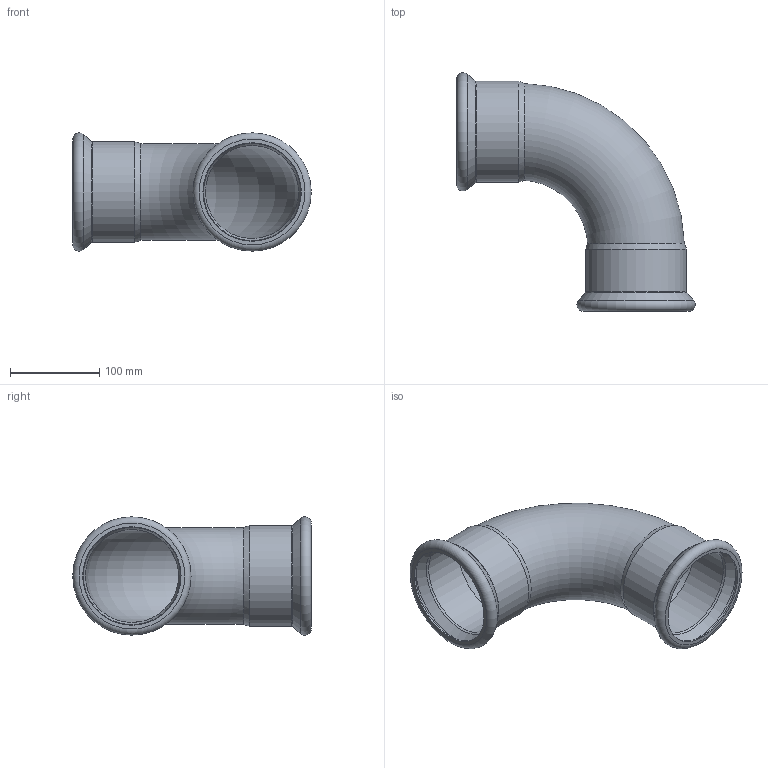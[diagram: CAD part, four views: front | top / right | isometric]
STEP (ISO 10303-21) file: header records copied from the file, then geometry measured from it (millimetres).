
FILE_DESCRIPTION((''),'2;1');
FILE_NAME('G:\Technics\CAD\Bauteile\108\69002A108(2).stp','2008-03-19T11:02:38',('herberg'),(''),'Autodesk Inventor 2008','Autodesk Inventor 2008','');
FILE_SCHEMA(('AUTOMOTIVE_DESIGN { 1 0 10303 214 1 1 1 1 }'));
Length unit declared in the file: millimetre
Products named in the file (1): 69002A108(2)
Bounding box: 266.6 x 266.59 x 132.2 mm (x, y, z)
Volume: 252709.1 mm3; surface area: 254102.8 mm2
Topology: 1 solids, 1 shells, 28 faces, 54 edges, 30 vertices
Faces by surface type: cone 8, torus 6, cylinder 6, plane 4, bspline 4
Full cylindrical faces by diameter (mm): 108.7 x2, 110 x2, 112.7 x2
Entity records: 882 total; most frequent: CARTESIAN_POINT 401, DIRECTION 98, ORIENTED_EDGE 56, EDGE_LOOP 56, AXIS2_PLACEMENT_3D 49, VERTEX_POINT 28, EDGE_CURVE 28, FACE_OUTER_BOUND 28
